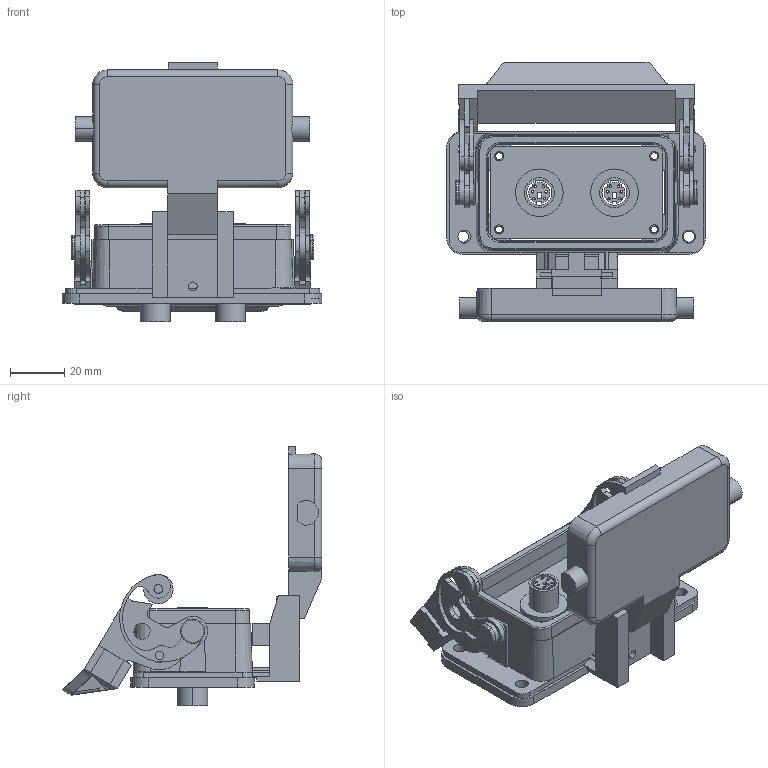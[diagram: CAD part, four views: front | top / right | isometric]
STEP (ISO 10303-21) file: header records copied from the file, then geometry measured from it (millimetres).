
FILE_DESCRIPTION (( 'STEP AP214' ), '1' );
FILE_NAME ('DM6-2-10LS.STEP', '2006-07-13T14:02:40', ( 'Mencom User' ), ( 'Mencom Corporation' ), 'SwSTEP 2.0', 'SolidWorks 2006104', '' );
FILE_SCHEMA (( 'AUTOMOTIVE_DESIGN' ));
Length unit declared in the file: inch
Products named in the file (1): DM6-2-10LS
Bounding box: 95.5 x 95.61 x 95.48 mm (x, y, z)
Surface area: 59004.3 mm2 (no closed solid volume)
Topology: 0 solids, 32 shells, 700 faces, 2214 edges, 1507 vertices
Faces by surface type: cylinder 335, plane 285, bspline 40, torus 26, cone 14
Entity records: 38042 total; most frequent: CARTESIAN_POINT 9943, DIRECTION 3892, ORIENTED_EDGE 3819, EDGE_CURVE 2214, VERTEX_POINT 1507, AXIS2_PLACEMENT_3D 1380, LINE 1132, VECTOR 1132
